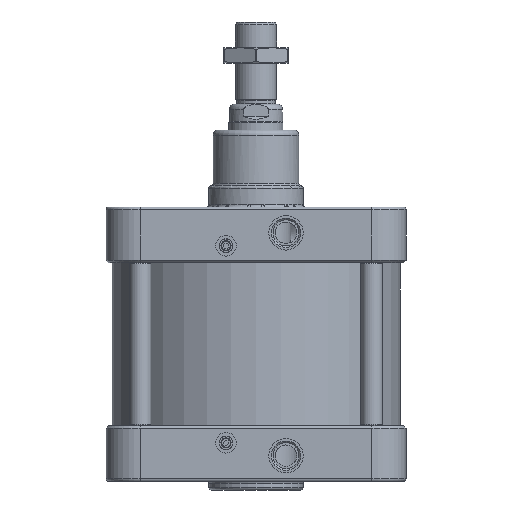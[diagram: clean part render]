
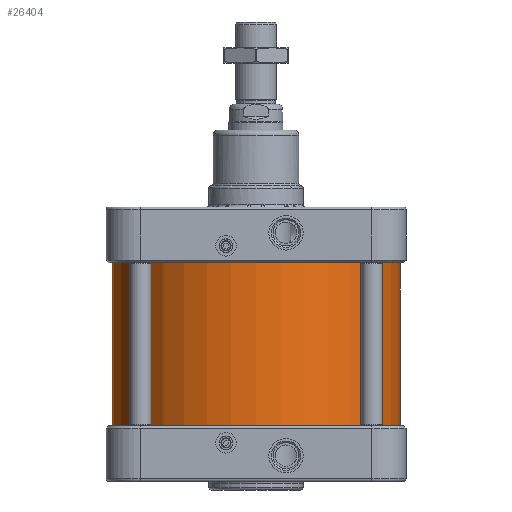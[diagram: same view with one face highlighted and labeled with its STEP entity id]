
A CAD part, front view. The second image highlights one B-rep face of the part: STEP entity #26404.
In plain terms, the highlighted cylindrical face has radius 168 mm (diameter 336 mm), a full revolution.
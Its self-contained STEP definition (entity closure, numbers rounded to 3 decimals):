
#2804=CIRCLE('',#29645,168.);
#2805=CIRCLE('',#29647,168.);
#3478=FACE_BOUND('',#7098,.T.);
#5147=FACE_OUTER_BOUND('',#7097,.T.);
#7097=EDGE_LOOP('',(#22547));
#7098=EDGE_LOOP('',(#22548));
#11979=VERTEX_POINT('',#64759);
#11980=VERTEX_POINT('',#64762);
#15511=EDGE_CURVE('',#11979,#11979,#2804,.T.);
#15512=EDGE_CURVE('',#11980,#11980,#2805,.T.);
#22547=ORIENTED_EDGE('',*,*,#15511,.T.);
#22548=ORIENTED_EDGE('',*,*,#15512,.T.);
#23070=CYLINDRICAL_SURFACE('',#29646,168.);
#26404=ADVANCED_FACE('',(#5147,#3478),#23070,.T.);
#29645=AXIS2_PLACEMENT_3D('',#64760,#36878,#36879);
#29646=AXIS2_PLACEMENT_3D('',#64761,#36880,#36881);
#29647=AXIS2_PLACEMENT_3D('',#64763,#36882,#36883);
#36878=DIRECTION('center_axis',(0.,0.,1.));
#36879=DIRECTION('ref_axis',(-1.,0.,0.));
#36880=DIRECTION('center_axis',(0.,0.,1.));
#36881=DIRECTION('ref_axis',(-1.,0.,0.));
#36882=DIRECTION('center_axis',(0.,0.,-1.));
#36883=DIRECTION('ref_axis',(-1.,0.,0.));
#64759=CARTESIAN_POINT('',(168.,0.,-95.));
#64760=CARTESIAN_POINT('Origin',(0.,0.,-95.));
#64761=CARTESIAN_POINT('Origin',(0.,0.,0.));
#64762=CARTESIAN_POINT('',(168.,0.,95.));
#64763=CARTESIAN_POINT('Origin',(0.,0.,95.));
